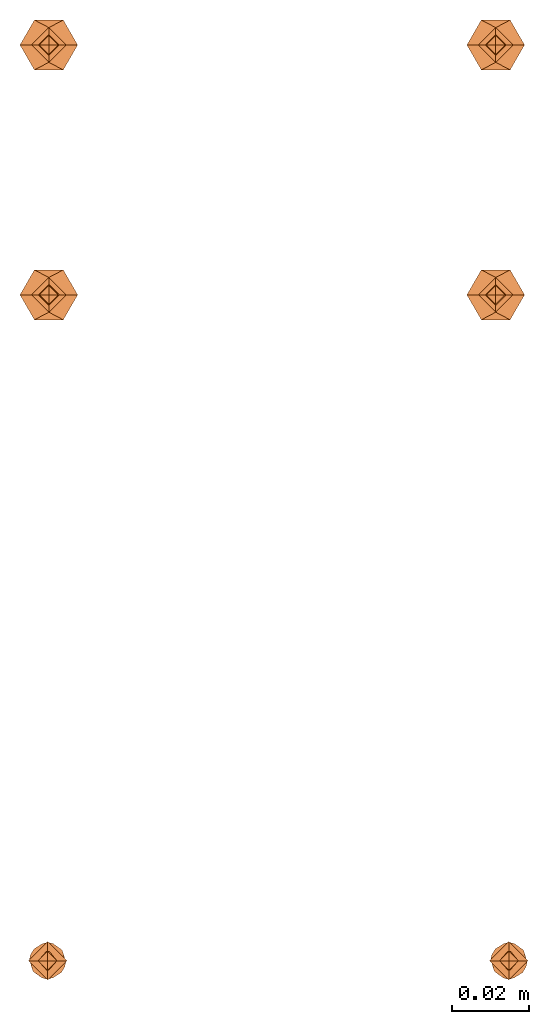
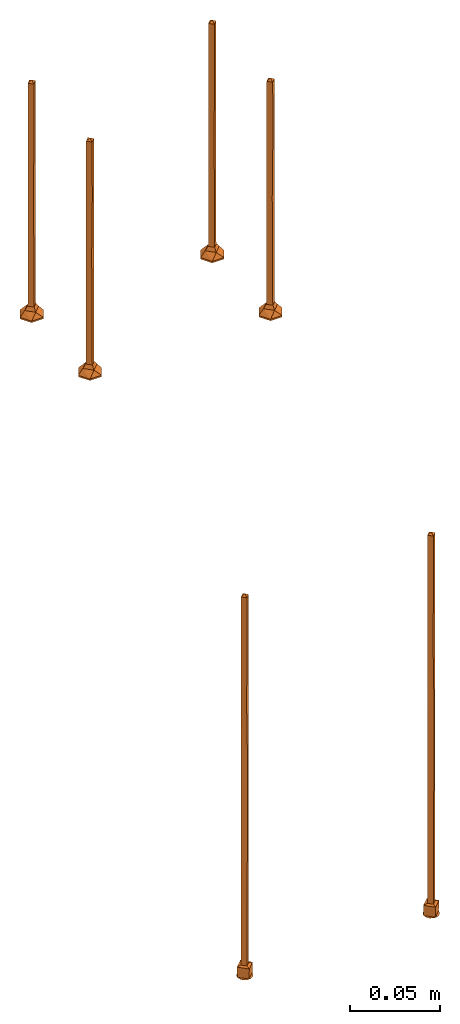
# One storey: 6 proxies.
"""IFC2X3 building model written with IfcOpenShell, lengths in millimetres."""

from ifc_helpers import new_model, entity, si_unit, converted_unit, derived_unit, direction, frame, origin, place, context, subcontext, project, spatial, faceted_brep, source, transform, mapped, material, type_object, type_shapes, element, save


model = new_model("IFC2X3")

# Units and contexts
model_context = context("Model", 3, precision=0.01, world=origin(), true_north=direction((6.123031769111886e-17, 1.0)))
body_context = subcontext(model_context, "Body", "Model", "MODEL_VIEW")
ifc_project = project(units=[si_unit("LENGTHUNIT", "METRE", prefix="MILLI"), si_unit("AREAUNIT", "SQUARE_METRE"), si_unit("VOLUMEUNIT", "CUBIC_METRE"), converted_unit("PLANEANGLEUNIT", "DEGREE", entity("IfcPlaneAngleMeasure", 0.017453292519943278), si_unit("PLANEANGLEUNIT", "RADIAN"), dimensions=[0, 0, 0, 0, 0, 0, 0]), si_unit("MASSUNIT", "GRAM", prefix="KILO"), derived_unit("MASSDENSITYUNIT", [(si_unit("MASSUNIT", "GRAM", prefix="KILO"), 1), (si_unit("LENGTHUNIT", "METRE"), -3)]), derived_unit("IONCONCENTRATIONUNIT", [(si_unit("MASSUNIT", "GRAM", prefix="KILO"), 1), (si_unit("LENGTHUNIT", "METRE"), -3)]), derived_unit("MOMENTOFINERTIAUNIT", [(si_unit("LENGTHUNIT", "METRE"), 4)]), si_unit("TIMEUNIT", "SECOND"), si_unit("FREQUENCYUNIT", "HERTZ"), si_unit("THERMODYNAMICTEMPERATUREUNIT", "DEGREE_CELSIUS"), derived_unit("THERMALTRANSMITTANCEUNIT", [(si_unit("MASSUNIT", "GRAM", prefix="KILO"), 1), (si_unit("THERMODYNAMICTEMPERATUREUNIT", "KELVIN"), -1), (si_unit("TIMEUNIT", "SECOND"), -3)]), derived_unit("THERMALCONDUCTANCEUNIT", [(si_unit("MASSUNIT", "GRAM", prefix="KILO"), 1), (si_unit("THERMODYNAMICTEMPERATUREUNIT", "KELVIN"), -1), (si_unit("TIMEUNIT", "SECOND"), -3), (si_unit("LENGTHUNIT", "METRE"), 1)]), derived_unit("VOLUMETRICFLOWRATEUNIT", [(si_unit("LENGTHUNIT", "METRE", prefix="DECI"), 3), (si_unit("TIMEUNIT", "SECOND"), -1)]), derived_unit("MASSFLOWRATEUNIT", [(si_unit("MASSUNIT", "GRAM", prefix="KILO"), 1), (si_unit("TIMEUNIT", "SECOND"), -1)]), derived_unit("ROTATIONALFREQUENCYUNIT", [(si_unit("TIMEUNIT", "SECOND"), -1)]), si_unit("ELECTRICCURRENTUNIT", "AMPERE"), si_unit("ELECTRICVOLTAGEUNIT", "VOLT"), si_unit("POWERUNIT", "WATT"), si_unit("FORCEUNIT", "NEWTON", prefix="KILO"), si_unit("ILLUMINANCEUNIT", "LUX"), si_unit("LUMINOUSFLUXUNIT", "LUMEN"), si_unit("LUMINOUSINTENSITYUNIT", "CANDELA"), si_unit("ENERGYUNIT", "JOULE"), derived_unit("USERDEFINED", [(si_unit("MASSUNIT", "GRAM", prefix="KILO"), -1), (si_unit("LENGTHUNIT", "METRE"), -2), (si_unit("TIMEUNIT", "SECOND"), 3), (si_unit("LUMINOUSFLUXUNIT", "LUMEN"), 1)]), derived_unit("USERDEFINED", [(si_unit("MASSUNIT", "GRAM", prefix="KILO"), 1), (si_unit("TIMEUNIT", "SECOND"), -3), (si_unit("LENGTHUNIT", "METRE"), 3), (si_unit("ELECTRICCURRENTUNIT", "AMPERE"), -2)]), derived_unit("SOUNDPOWERUNIT", [(si_unit("MASSUNIT", "GRAM", prefix="KILO"), 1), (si_unit("TIMEUNIT", "SECOND"), -3), (si_unit("LENGTHUNIT", "METRE"), 2)]), derived_unit("SOUNDPRESSUREUNIT", [(si_unit("MASSUNIT", "GRAM", prefix="KILO"), 1), (si_unit("LENGTHUNIT", "METRE"), -1), (si_unit("TIMEUNIT", "SECOND"), -2)]), derived_unit("LINEARVELOCITYUNIT", [(si_unit("LENGTHUNIT", "METRE"), 1), (si_unit("TIMEUNIT", "SECOND"), -1)]), si_unit("PRESSUREUNIT", "PASCAL"), derived_unit("USERDEFINED", [(si_unit("MASSUNIT", "GRAM", prefix="KILO"), 1), (si_unit("LENGTHUNIT", "METRE"), -2), (si_unit("TIMEUNIT", "SECOND"), -2)]), derived_unit("LINEARFORCEUNIT", [(si_unit("MASSUNIT", "GRAM", prefix="KILO"), 1), (si_unit("TIMEUNIT", "SECOND"), -2)]), derived_unit("PLANARFORCEUNIT", [(si_unit("MASSUNIT", "GRAM", prefix="KILO"), 1), (si_unit("LENGTHUNIT", "METRE"), -1), (si_unit("TIMEUNIT", "SECOND"), -2)]), derived_unit("SPECIFICHEATCAPACITYUNIT", [(si_unit("THERMODYNAMICTEMPERATUREUNIT", "KELVIN"), -1), (si_unit("LENGTHUNIT", "METRE"), 2), (si_unit("TIMEUNIT", "SECOND"), -2)]), derived_unit("HEATFLUXDENSITYUNIT", [(si_unit("MASSUNIT", "GRAM", prefix="KILO"), 1), (si_unit("TIMEUNIT", "SECOND"), -3)]), derived_unit("HEATINGVALUEUNIT", [(si_unit("LENGTHUNIT", "METRE"), 2), (si_unit("TIMEUNIT", "SECOND"), -2)]), derived_unit("VAPORPERMEABILITYUNIT", [(si_unit("LENGTHUNIT", "METRE"), -1), (si_unit("TIMEUNIT", "SECOND"), 1)]), derived_unit("DYNAMICVISCOSITYUNIT", [(si_unit("MASSUNIT", "GRAM", prefix="KILO"), 1), (si_unit("TIMEUNIT", "SECOND"), -1), (si_unit("LENGTHUNIT", "METRE"), -1)]), derived_unit("THERMALEXPANSIONCOEFFICIENTUNIT", [(si_unit("THERMODYNAMICTEMPERATUREUNIT", "KELVIN"), -1)]), derived_unit("MODULUSOFELASTICITYUNIT", [(si_unit("MASSUNIT", "GRAM", prefix="KILO"), 1), (si_unit("LENGTHUNIT", "METRE"), -1), (si_unit("TIMEUNIT", "SECOND"), -2)]), derived_unit("ISOTHERMALMOISTURECAPACITYUNIT", [(si_unit("MASSUNIT", "GRAM", prefix="KILO"), -1), (si_unit("LENGTHUNIT", "METRE"), 3)]), derived_unit("MOISTUREDIFFUSIVITYUNIT", [(si_unit("TIMEUNIT", "SECOND"), -1), (si_unit("LENGTHUNIT", "METRE"), 2)]), derived_unit("MASSPERLENGTHUNIT", [(si_unit("MASSUNIT", "GRAM", prefix="KILO"), 1), (si_unit("LENGTHUNIT", "METRE"), -1)]), derived_unit("THERMALRESISTANCEUNIT", [(si_unit("MASSUNIT", "GRAM", prefix="KILO"), -1), (si_unit("TIMEUNIT", "SECOND"), 3), (si_unit("THERMODYNAMICTEMPERATUREUNIT", "KELVIN"), 1)]), derived_unit("ACCELERATIONUNIT", [(si_unit("LENGTHUNIT", "METRE"), 1), (si_unit("TIMEUNIT", "SECOND"), -2)]), derived_unit("ANGULARVELOCITYUNIT", [(si_unit("TIMEUNIT", "SECOND"), -1), (si_unit("PLANEANGLEUNIT", "RADIAN"), 1)]), derived_unit("LINEARSTIFFNESSUNIT", [(si_unit("MASSUNIT", "GRAM", prefix="KILO"), 1), (si_unit("TIMEUNIT", "SECOND"), -2)]), derived_unit("WARPINGCONSTANTUNIT", [(si_unit("LENGTHUNIT", "METRE"), 6)]), derived_unit("LINEARMOMENTUNIT", [(si_unit("MASSUNIT", "GRAM", prefix="KILO"), 1), (si_unit("LENGTHUNIT", "METRE"), 1), (si_unit("TIMEUNIT", "SECOND"), -2)]), derived_unit("TORQUEUNIT", [(si_unit("MASSUNIT", "GRAM", prefix="KILO"), 1), (si_unit("LENGTHUNIT", "METRE"), 2), (si_unit("TIMEUNIT", "SECOND"), -2)])], contexts=[model_context])

# Site, building, storey
site_placement = place(None, origin())
site = spatial("IfcSite", under=ifc_project, at=site_placement, Name="Default", CompositionType="ELEMENT")
building_placement = place(site_placement, origin())
building = spatial("IfcBuilding", under=site, at=building_placement, Name="Building Name", CompositionType="ELEMENT")
storey_placement = place(building_placement, frame((0.0, 0.0, 11200.0)))
storey = spatial("IfcBuildingStorey", under=building, at=storey_placement, Name="T/O STAGE", CompositionType="ELEMENT", Elevation=11199.99999999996)

# Proxies
ifc_material = material(Name="<Unnamed>")
building_element_proxy_type_1 = type_object("IfcBuildingElementProxyType", Name="CYL SCREW 8mm:8-260/244", PredefinedType="NOTDEFINED", material=ifc_material)
shared_shape_1 = source(origin(), body_context, "Body", "Brep", [
    faceted_brep([(-2.4499999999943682, 0.0, -231.22104943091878), (8.140781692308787e-09, 2.4499999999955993, -217.55759496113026), (0.0, 2.449999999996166, -258.54795941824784), (0.0, 2.449999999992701, -8.0), (2.4500000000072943, 0.0, -8.0), (2.4500000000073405, 0.0, -35.326910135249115), (2.4500000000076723, 0.0, -231.22104928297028), (2.4500000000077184, 0.0, -258.5479594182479), (0.9340491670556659, 1.5159508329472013, -258.54795941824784), (-2.449999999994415, 0.0, -203.89413944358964), (-2.449999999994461, 0.0, -176.5672282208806), (0.31364648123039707, 2.429840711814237, -148.93322870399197), (-0.2629363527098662, 2.4358498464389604, -187.0430750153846), (0.22660495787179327, 2.4394979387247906, -115.32759606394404), (-2.4499999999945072, 0.0, -149.24031823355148), (-2.4499999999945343, 0.0, -133.27397970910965), (-2.4499999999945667, 0.0, -113.93023960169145), (-0.07198539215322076, 2.4489422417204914, -53.77650018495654), (0.23864882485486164, 2.4383491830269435, -86.29623954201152), (2.4500000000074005, 0.0, -70.63698985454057), (2.4500000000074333, 0.0, -89.98073032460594), (2.4500000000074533, 0.0, -101.9554847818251), (-2.4499999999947, 0.0, -35.32691122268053), (-2.449999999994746, 0.0, -8.0), (-0.4670245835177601, 1.9829754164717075, -258.54795941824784), (-0.9340491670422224, 1.515950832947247, -258.54795941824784), (-2.449999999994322, 0.0, -258.5479594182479), (2.4500000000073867, 0.0, -62.65381939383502), (2.4500000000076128, 0.0, -195.91096956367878), (-2.449999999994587, 0.0, -101.9554847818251), (-2.4499999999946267, 0.0, -78.62015973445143), (-2.4499999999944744, 0.0, -168.58405906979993), (2.450000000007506, 0.0, -133.27397970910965), (2.450000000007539, 0.0, -152.6177207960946), (2.450000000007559, 0.0, -164.5924746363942), (2.450000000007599, 0.0, -187.9278003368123), (-2.4499999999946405, 0.0, -70.63698985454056), (2.4500000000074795, 0.0, -117.30764125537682), (0.0, -2.4500000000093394, -8.0), (0.0, -2.4500000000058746, -258.5479594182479), (0.4670245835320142, -1.9829754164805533, -258.5479594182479), (0.934049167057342, -1.515950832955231, -258.5479594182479), (0.1702306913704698, -2.444078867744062, -160.7622667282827), (3.121371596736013e-08, -2.4500000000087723, -48.990366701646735), (0.3303142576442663, -2.4276310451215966, -133.37725040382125), (0.23551799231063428, -2.438653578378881, -103.64418710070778), (1.523766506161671e-08, -2.4500000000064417, -217.55759495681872), (-0.32553412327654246, -2.4282766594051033, -187.94225380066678), (0.4894067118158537, -2.4006209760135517, -76.23538422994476), (-0.9340491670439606, -1.5159508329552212, -258.5479594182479), (0.0, 5.0, -7.499999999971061), (5.0, 0.0, -7.499999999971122), (-5.0, 0.0, -7.499999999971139), (0.0, -5.0, -7.499999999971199), (0.0, 4.814849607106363, -0.556860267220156), (1.8191251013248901, 2.995724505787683, -0.5568602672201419), (3.3169873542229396, 1.4978622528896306, -0.55686026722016), (4.8148496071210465, 0.0, -0.5568602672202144), (-4.814849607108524, 0.0, -0.5568602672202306), (-3.3169873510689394, 1.4978622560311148, -0.5568602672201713), (-1.8191250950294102, 2.9957245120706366, -0.5568602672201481), (0.0, -4.814849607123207, -0.5568602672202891), (-1.8191251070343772, -2.9957245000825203, -0.556860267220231), (-3.316987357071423, -1.4978622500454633, -0.5568602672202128), (3.3169873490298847, -1.497862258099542, -0.5568602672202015), (1.8191250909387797, -2.99572451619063, -0.5568602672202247), (1.4061913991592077, 4.413570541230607, -0.1613428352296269), (-1.408348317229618, 4.474648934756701, -0.22614322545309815), (2.72961419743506, 1.4978622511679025, 0.0), (4.22747644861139, 0.0, 0.0), (4.374481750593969, 0.0, -0.05860824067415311), (4.225926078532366, 1.7075448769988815, -0.10155586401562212), (-2.729614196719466, 1.4978622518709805, 0.0), (-2.942096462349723, 3.3921709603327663, -0.06198101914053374), (-4.0801054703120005, 1.9109127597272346, -0.06981259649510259), (-3.778937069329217, 2.782301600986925, -0.22828731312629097), (-4.632167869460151, 0.0, -0.16134283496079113), (-1.0589761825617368, 4.340954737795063, -0.05153901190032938), (-1.3648070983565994, 2.8626693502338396, 0.0), (0.0, 4.2274764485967, 0.0), (2.9413158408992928, 3.38556921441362, -0.059271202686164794), (0.6589760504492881, 4.399229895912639, -0.043028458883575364), (1.3648070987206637, 2.8626693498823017, 0.0), (3.5602621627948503, 3.0693780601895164, -0.23884873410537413), (4.429822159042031, 0.0, -0.08067141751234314), (4.6321678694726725, 0.0, -0.16134283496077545), (-4.227476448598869, 0.0, 0.0), (-4.42982215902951, 0.0, -0.08067141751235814), (-4.374481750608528, 0.0, -0.0586082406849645), (4.462041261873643, 1.5666330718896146, -0.2809815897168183), (-1.4061914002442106, -4.413570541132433, -0.16134283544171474), (1.4083483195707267, -4.474648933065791, -0.22614322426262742), (-2.7296141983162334, -1.4978622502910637, 0.0), (-4.225926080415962, -1.7075448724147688, -0.10155586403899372), (2.7296141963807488, -1.497862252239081, 0.0), (2.942096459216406, -3.3921709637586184, -0.061981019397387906), (4.0801054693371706, -1.9109127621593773, -0.0698125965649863), (3.7789370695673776, -2.782301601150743, -0.22828731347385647), (1.0589761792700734, -4.340954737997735, -0.051539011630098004), (1.3648070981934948, -2.8626693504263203, 0.0), (0.0, -4.227476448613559, 0.0), (-2.9413158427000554, -3.38556921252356, -0.05927120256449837), (-0.6589760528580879, -4.399229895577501, -0.04302845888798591), (-1.364807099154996, -2.862669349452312, 0.0), (-3.5602621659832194, -3.0693780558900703, -0.23884873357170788), (-4.462041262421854, -1.566633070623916, -0.2809815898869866), (0.0, 0.0, 0.0), (1.3232025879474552, 0.0, -259.1942193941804), (0.0, 0.0, -259.95312500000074), (-1.3232025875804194, 0.0, -259.1942193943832)], [[[0, 1, 2]], [[3, 4, 5]], [[6, 7, 8, 2]], [[9, 1, 0]], [[10, 11, 12]], [[1, 9, 12]], [[13, 14, 15, 16]], [[5, 17, 3]], [[16, 18, 13]], [[18, 19, 20, 21]], [[22, 23, 3]], [[0, 2, 24, 25, 26]], [[17, 5, 27, 19]], [[28, 1, 12]], [[18, 17, 19]], [[18, 16, 29, 30]], [[28, 6, 1]], [[2, 1, 6]], [[11, 10, 31, 14]], [[18, 21, 13]], [[11, 32, 33, 34]], [[12, 34, 35, 28]], [[17, 30, 36, 22]], [[30, 17, 18]], [[17, 22, 3]], [[13, 21, 37, 32]], [[13, 32, 11]], [[12, 11, 34]], [[13, 11, 14]], [[12, 9, 10]], [[38, 5, 4]], [[6, 39, 40, 41, 7]], [[42, 15, 14, 31]], [[5, 43, 27]], [[15, 44, 45]], [[46, 39, 6]], [[46, 35, 47]], [[48, 29, 45]], [[39, 46, 0]], [[45, 37, 21, 20]], [[33, 44, 42]], [[48, 36, 30, 29]], [[38, 23, 22]], [[0, 26, 49, 39]], [[0, 46, 9]], [[46, 6, 28, 35]], [[43, 38, 22]], [[38, 43, 5]], [[36, 43, 22]], [[48, 20, 19, 27]], [[48, 27, 43]], [[45, 29, 16, 15]], [[47, 42, 31]], [[37, 45, 44]], [[46, 47, 9]], [[44, 33, 32, 37]], [[42, 35, 34, 33]], [[47, 31, 10, 9]], [[36, 48, 43]], [[20, 48, 45]], [[42, 44, 15]], [[35, 42, 47]], [[4, 3, 50, 51]], [[50, 3, 23, 52]], [[23, 38, 53, 52]], [[53, 38, 4, 51]], [[51, 50, 54, 55, 56, 57]], [[50, 52, 58, 59, 60, 54]], [[52, 53, 61, 62, 63, 58]], [[53, 51, 57, 64, 65, 61]], [[66, 54, 67]], [[68, 69, 70]], [[54, 66, 55]], [[70, 71, 68]], [[72, 73, 74]], [[75, 59, 76]], [[77, 78, 79]], [[67, 60, 75]], [[78, 73, 72]], [[67, 54, 60]], [[80, 81, 82]], [[66, 83, 55]], [[66, 67, 77]], [[71, 70, 84, 85]], [[59, 58, 76]], [[72, 74, 86]], [[76, 87, 88, 86, 74]], [[56, 55, 83]], [[57, 56, 89]], [[89, 83, 71]], [[73, 75, 74]], [[77, 73, 78]], [[67, 75, 73]], [[81, 77, 79]], [[73, 77, 67]], [[76, 74, 75]], [[68, 80, 82]], [[66, 77, 81]], [[81, 79, 82]], [[81, 80, 66]], [[66, 80, 83]], [[89, 71, 85]], [[83, 80, 71]], [[68, 71, 80]], [[57, 89, 85]], [[56, 83, 89]], [[75, 60, 59]], [[90, 61, 91]], [[92, 86, 88]], [[61, 90, 62]], [[88, 93, 92]], [[94, 95, 96]], [[97, 64, 85]], [[98, 99, 100]], [[91, 65, 97]], [[99, 95, 94]], [[91, 61, 65]], [[101, 102, 103]], [[90, 104, 62]], [[90, 91, 98]], [[93, 88, 87, 76]], [[64, 57, 85]], [[94, 96, 69]], [[85, 84, 70, 69, 96]], [[63, 62, 104]], [[58, 63, 105]], [[105, 104, 93]], [[95, 97, 96]], [[98, 95, 99]], [[91, 97, 95]], [[102, 98, 100]], [[95, 98, 91]], [[85, 96, 97]], [[92, 101, 103]], [[90, 98, 102]], [[102, 100, 103]], [[102, 101, 90]], [[90, 101, 104]], [[105, 93, 76]], [[104, 101, 93]], [[92, 93, 101]], [[58, 105, 76]], [[63, 104, 105]], [[97, 65, 64]], [[106, 79, 78]], [[106, 78, 72]], [[106, 72, 86]], [[106, 86, 92]], [[106, 82, 79]], [[106, 68, 82]], [[106, 69, 68]], [[106, 92, 103]], [[106, 103, 100]], [[106, 100, 99]], [[106, 99, 94]], [[106, 94, 69]], [[8, 7, 107, 108, 2]], [[2, 108, 109, 26, 25, 24]], [[49, 26, 109, 108, 39]], [[39, 108, 107, 7, 41, 40]]]),
])
type_shapes(building_element_proxy_type_1, [shared_shape_1])
for number, where, z_axis, x_axis in (
    (1, (5515.092454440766, 15406.586825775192, 1741.0), (0.0, 0.0, -1.0), (1.0, 0.0, 0.0)),
    (2, (5635.092454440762, 15406.586825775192, 1741.0), (0.0, 0.0, -1.0), (1.0, 0.0, 0.0)),
):
    element("IfcBuildingElementProxy", number, at=place(storey_placement, frame(where, z_axis=z_axis, x_axis=x_axis)), inside=storey, type_object=building_element_proxy_type_1, material=ifc_material, Name="CYL SCREW 8mm:8-260/244", ObjectType="CYL SCREW 8mm:8-260/244", context=body_context, shape_type="MappedRepresentation", body=[
        mapped(shared_shape_1, transform((0.0, 0.0, 0.0), scale=1.0)),
    ])
building_element_proxy_type_2 = type_object("IfcBuildingElementProxyType", Name="CSK SCREW 8mm_with_Void:8-160/143_90°", PredefinedType="NOTDEFINED", material=ifc_material)
shared_shape_2 = source(origin(), body_context, "Body", "Brep", [
    faceted_brep([(-2.450000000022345, 0.0, -36.104826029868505), (-2.4500000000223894, 0.0, -8.777915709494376), (0.0, 2.450000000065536, -8.777915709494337), (0.09187657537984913, 2.4482766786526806, -119.37280151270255), (2.4500000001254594, 0.0, -107.477375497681), (2.4500000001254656, 0.0, -111.01343541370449), (2.450000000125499, 0.0, -131.26822533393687), (1.1750448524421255e-07, 2.4500000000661, -49.76828316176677), (-2.4500000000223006, 0.0, -63.43173562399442), (-2.450000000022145, 0.0, -158.5951356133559), (-2.4500000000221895, 0.0, -131.26822615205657), (-2.4500000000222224, 0.0, -111.01343525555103), (2.4500000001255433, 0.0, -158.5951356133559), (0.9340491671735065, 1.5159508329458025, -158.59513561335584), (0.0, 2.4500000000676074, -158.59513561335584), (2.4500000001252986, 0.0, -8.777915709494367), (2.4500000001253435, 0.0, -36.104825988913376), (-0.312006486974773, 2.4300518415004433, -79.57818034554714), (2.4500000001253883, 0.0, -63.43173674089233), (2.450000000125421, 0.0, -83.68652566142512), (-2.4500000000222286, 0.0, -107.47737590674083), (-2.4500000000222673, 0.0, -83.68652566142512), (-0.4670245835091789, 1.982975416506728, -158.59513561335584), (-0.9340491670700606, 1.5159508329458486, -158.59513561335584), (0.31200665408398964, -2.4300518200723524, -79.57818098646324), (5.366209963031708e-08, -2.450000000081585, -49.76828165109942), (-0.0918764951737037, -2.448276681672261, -119.3728014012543), (0.0, -2.4500000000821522, -8.777915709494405), (-0.9340491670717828, -1.515950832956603, -158.59513561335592), (0.0, -2.4500000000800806, -158.59513561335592), (0.4670245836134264, -1.982975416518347, -158.59513561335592), (0.9340491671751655, -1.5159508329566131, -158.59513561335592), (1.3232025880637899, 0.0, -159.25958189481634), (0.0, 0.0, -160.0398437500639), (-1.32320258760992, 0.0, -159.259581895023), (0.0, 2.739138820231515, -7.0), (2.7391388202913, 0.0, -7.0), (-2.739138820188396, 0.0, -7.0), (0.0, -2.739138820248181, -7.0), (4.514810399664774, 0.0, -4.600000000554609), (0.0, 4.51481039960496, -4.600000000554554), (-4.5148103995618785, 0.0, -4.6000000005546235), (0.0, -4.514810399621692, -4.600000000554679), (3.7500000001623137, 6.495190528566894, -1.0), (6.0732117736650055, 2.4712697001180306, -1.0), (7.500000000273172, 0.0, -1.0), (-3.75000000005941, 6.495190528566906, -1.0), (-7.500000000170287, 0.0, -1.0), (-5.62500000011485, 3.2475952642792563, -1.0), (0.0, 6.495190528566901, -1.0), (-3.7500000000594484, -6.495190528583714, -1.0), (-6.0732117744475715, -2.471269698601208, -1.0), (3.7500000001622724, -6.495190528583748, -1.0), (5.625000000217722, -3.247595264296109, -1.0), (0.0, -6.495190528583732, -1.0), (5.625000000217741, 3.247595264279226, 0.0), (7.500000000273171, 0.0, 0.0), (3.7500000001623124, 6.495190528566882, 0.0), (0.0, 6.495190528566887, 0.0), (-3.750000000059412, 6.495190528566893, 0.0), (-6.073211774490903, 2.4712696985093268, 0.0), (-7.5000000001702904, 0.0, 0.0), (-5.625000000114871, -3.247595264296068, 0.0), (-3.7500000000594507, -6.495190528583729, 0.0), (0.0, -6.495190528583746, 0.0), (3.750000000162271, -6.4951905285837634, 0.0), (6.073211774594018, -2.4712696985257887, 0.0), (0.0, 0.0, 0.0)], [[[0, 1, 2]], [[3, 4, 5, 6]], [[7, 8, 0]], [[3, 9, 10, 11]], [[6, 12, 13, 14]], [[2, 15, 16]], [[7, 0, 2]], [[14, 3, 6]], [[7, 2, 16]], [[7, 17, 8]], [[7, 16, 18, 19]], [[17, 7, 19]], [[17, 19, 4]], [[17, 11, 20, 21, 8]], [[3, 14, 22, 23, 9]], [[4, 3, 17]], [[17, 3, 11]], [[21, 24, 25]], [[26, 12, 6, 5]], [[27, 25, 16]], [[25, 24, 18]], [[10, 9, 28, 29]], [[27, 1, 0]], [[25, 27, 0]], [[26, 20, 11, 10]], [[16, 25, 18]], [[29, 26, 10]], [[16, 15, 27]], [[25, 0, 8, 21]], [[24, 21, 20]], [[24, 5, 4, 19, 18]], [[26, 29, 30, 31, 12]], [[20, 26, 24]], [[24, 26, 5]], [[13, 12, 32, 33, 14]], [[14, 33, 34, 9, 23, 22]], [[28, 9, 34, 33, 29]], [[29, 33, 32, 12, 31, 30]], [[15, 2, 35, 36]], [[35, 2, 1, 37]], [[1, 27, 38, 37]], [[38, 27, 15, 36]], [[39, 36, 35, 40]], [[35, 37, 41, 40]], [[41, 37, 38, 42]], [[38, 36, 39, 42]], [[39, 43, 44, 45]], [[43, 39, 40]], [[40, 41, 46]], [[41, 47, 48, 46]], [[40, 46, 49, 43]], [[41, 50, 51, 47]], [[50, 41, 42]], [[42, 39, 52]], [[39, 45, 53, 52]], [[42, 52, 54, 50]], [[55, 56, 45, 44, 43, 57]], [[58, 57, 43, 49, 46, 59]], [[60, 59, 46, 48, 47, 61]], [[62, 61, 47, 51, 50, 63]], [[64, 63, 50, 54, 52, 65]], [[66, 65, 52, 53, 45, 56]], [[67, 59, 60]], [[67, 60, 61]], [[67, 61, 62]], [[67, 58, 59]], [[67, 57, 58]], [[67, 55, 57]], [[67, 56, 55]], [[67, 62, 63]], [[67, 63, 64]], [[67, 66, 56]], [[67, 65, 66]], [[67, 64, 65]]]),
])
type_shapes(building_element_proxy_type_2, [shared_shape_2])
for number, where, z_axis, x_axis in (
    (3, (5631.6600686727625, 15644.814062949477, 2046.0), (0.0, 0.0, -1.0), (1.0, 0.0, 0.0)),
    (4, (5631.660068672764, 15579.81406294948, 2046.0), (0.0, 0.0, -1.0), (1.0, 0.0, 0.0)),
    (5, (5515.410068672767, 15579.81406294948, 2046.0), (0.0, 0.0, -1.0), (1.0, 0.0, 0.0)),
    (6, (5515.410068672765, 15644.814062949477, 2046.0), (0.0, 0.0, -1.0), (1.0, 0.0, 0.0)),
):
    element("IfcBuildingElementProxy", number, at=place(storey_placement, frame(where, z_axis=z_axis, x_axis=x_axis)), inside=storey, type_object=building_element_proxy_type_2, material=ifc_material, Name="CSK SCREW 8mm_with_Void:8-160/143_90°", ObjectType="CSK SCREW 8mm_with_Void:8-160/143_90°", context=body_context, shape_type="MappedRepresentation", body=[
        mapped(shared_shape_2, transform((0.0, 0.0, 0.0), scale=1.0)),
    ])

save(model, "model.ifc")
